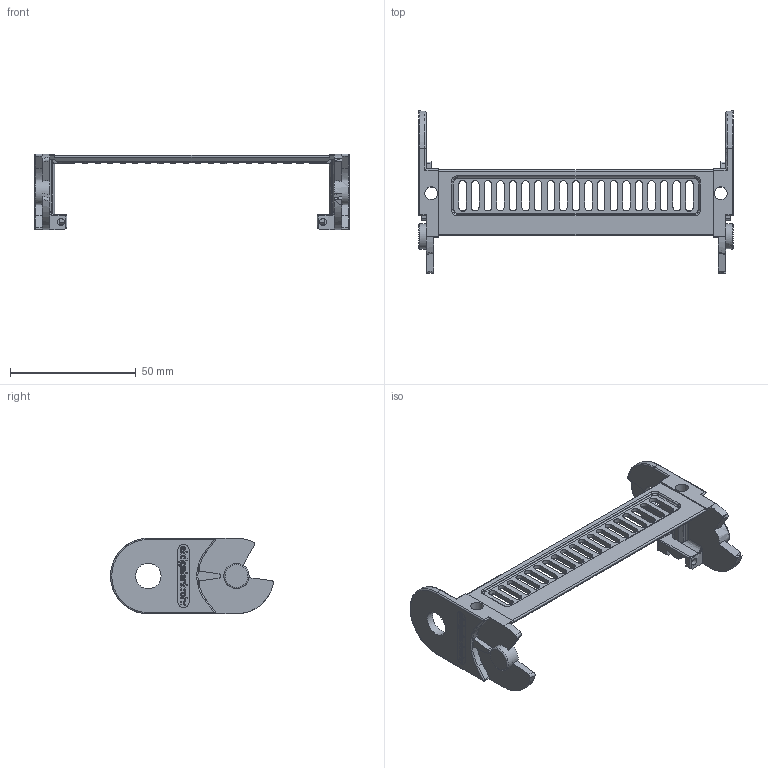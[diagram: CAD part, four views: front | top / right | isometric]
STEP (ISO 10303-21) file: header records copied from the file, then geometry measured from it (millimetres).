
FILE_DESCRIPTION((''),'2;1');
FILE_NAME('C:\Uebbing\PARAMETERKETTEN\KOLIBRI\Kol_30_125_1\Kol 30_125_1 Lasche.stp','2011-11-02T12:40:12',('Uebbing'),(''),'Autodesk Inventor 10','Autodesk Inventor 10','');
FILE_SCHEMA(('AUTOMOTIVE_DESIGN { 1 0 10303 214 1 1 1 1 }'));
Length unit declared in the file: millimetre
Products named in the file (1): Kol 30_125_1 Lasche
Bounding box: 125 x 64.71 x 30 mm (x, y, z)
Volume: 15759 mm3; surface area: 16209.8 mm2
Topology: 1 solids, 1 shells, 550 faces, 1572 edges, 1018 vertices
Faces by surface type: plane 247, bspline 162, cylinder 117, torus 19, sphere 3, cone 2
Full cylindrical faces by diameter (mm): 1.166 x1, 2.048 x1, 2.8 x2, 5.1 x1, 10 x1, 10.1 x1
Entity records: 20181 total; most frequent: CARTESIAN_POINT 6011, ORIENTED_EDGE 3108, DIRECTION 2780, EDGE_CURVE 1554, VERTEX_POINT 1022, VECTOR 982, LINE 982, AXIS2_PLACEMENT_3D 899
